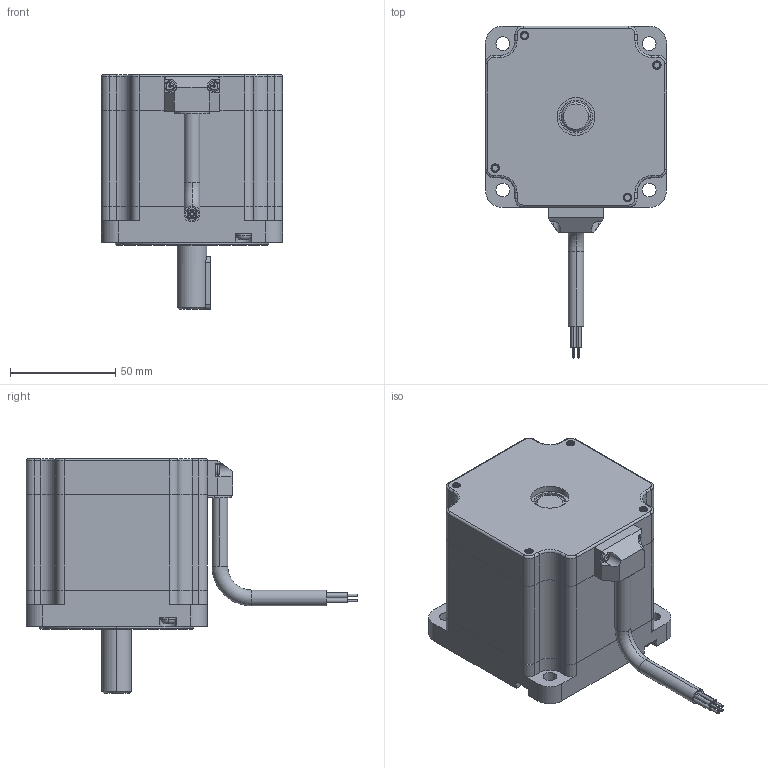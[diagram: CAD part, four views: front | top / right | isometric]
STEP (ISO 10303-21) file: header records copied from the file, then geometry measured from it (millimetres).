
FILE_DESCRIPTION (( 'STEP AP214' ), '1' );
FILE_NAME ('34HS31-6004S1.STEP', '2022-01-06T07:06:05', ( '' ), ( '' ), 'SwSTEP 2.0', 'SolidWorks 2016', '' );
FILE_SCHEMA (( 'AUTOMOTIVE_DESIGN' ));
Length unit declared in the file: millimetre
Products named in the file (1): 34HS31-6004S1
Bounding box: 86 x 157.49 x 111.5 mm (x, y, z)
Volume: 550540.2 mm3; surface area: 53601.7 mm2
Topology: 1 solids, 1 shells, 421 faces, 1104 edges, 716 vertices
Faces by surface type: plane 215, cylinder 151, torus 26, cone 17, bspline 12
Entity records: 20308 total; most frequent: CARTESIAN_POINT 7358, ORIENTED_EDGE 2208, DIRECTION 2088, EDGE_CURVE 1104, AXIS2_PLACEMENT_3D 732, VERTEX_POINT 716, LINE 624, VECTOR 624
